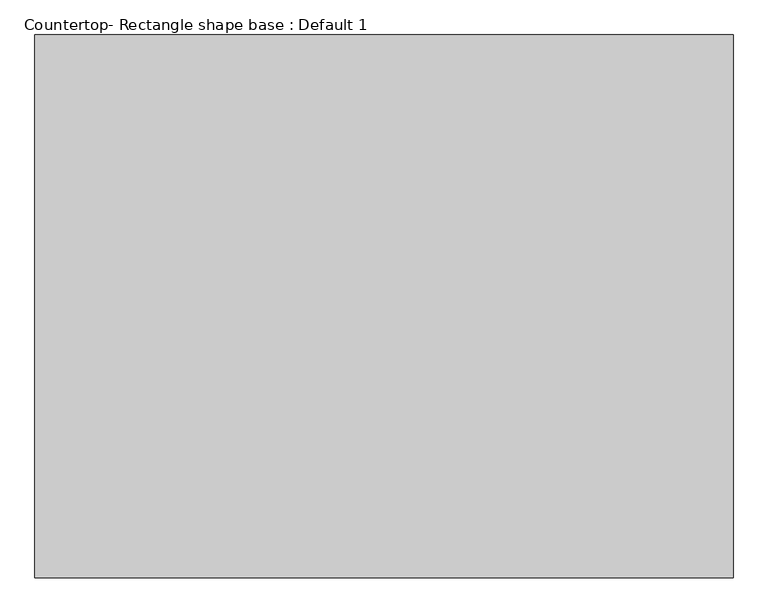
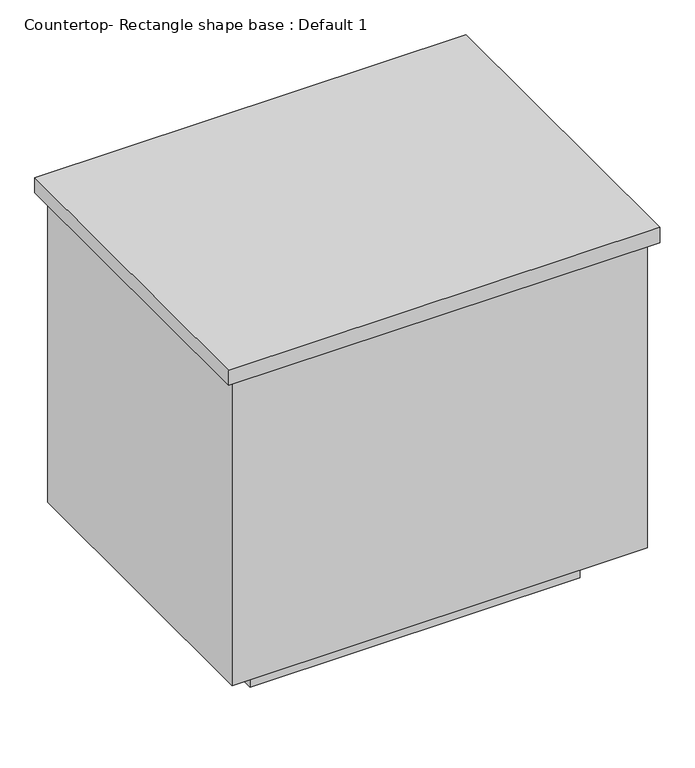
"""IFC4 building model written with IfcOpenShell, lengths in millimetres: proxy geometry, Countertop- Rectangle shape base : Default 1."""

from ifc_helpers import new_model, si_unit, frame, origin, origin_with_axes, place, context, project, spatial, polyline, outline, extrude, source, transform, mapped, element, save


def countertop_rectangle_shape_base_default_1_d2164e0d(model_context):
    return source(origin(), model_context, "Body", "SweptSolid", [
        extrude(outline(polyline([(247.65, 19.05), (1276.35, 19.05), (1276.35, -781.05), (247.65, -781.05), (247.65, 19.05)])), frame((0.0, 0.0, 876.3), z_axis=(0.0, 0.0, 1.0), x_axis=(1.0, 0.0, 0.0)), (0.0, 0.0, 1.0), 38.1),
        extrude(outline(polyline([(1257.3, -762.0), (266.7, -762.0), (266.7, 0.0), (1257.3, 0.0), (1257.3, -762.0)])), frame((0.0, 0.0, 101.6), z_axis=(0.0, 0.0, 1.0), x_axis=(1.0, 0.0, 0.0)), (0.0, 0.0, 1.0), 774.7),
        extrude(outline(polyline([(1155.7, -660.4), (368.3, -660.4), (368.3, -101.6), (1155.7, -101.6), (1155.7, -660.4)])), origin_with_axes(), (0.0, 0.0, 1.0), 101.6),
    ])


if __name__ == "__main__":
    model = new_model("IFC4")
    model_context = context("Model", 3, world=origin())
    ifc_project = project(units=[si_unit("LENGTHUNIT", "METRE", prefix="MILLI")], contexts=[model_context])
    site = spatial("IfcSite", under=ifc_project)
    building = spatial("IfcBuilding", under=site)
    placement = place(None, origin())
    countertop_rectangle_shape_base_default_1_shape = countertop_rectangle_shape_base_default_1_d2164e0d(model_context)
    element("IfcBuildingElementProxy", 1, Name="Countertop- Rectangle shape base : Default 1", ObjectType="Countertop- Rectangle shape base : Default 1", at=placement, inside=building, context=model_context, shape_type="MappedRepresentation", body=[
        mapped(countertop_rectangle_shape_base_default_1_shape, transform((0.0, 0.0, 0.0), x_axis=(1.0, 0.0, 0.0), y_axis=(0.0, 1.0, 0.0), z_axis=(0.0, 0.0, 1.0))),
    ])
    save(model, "model.ifc")
